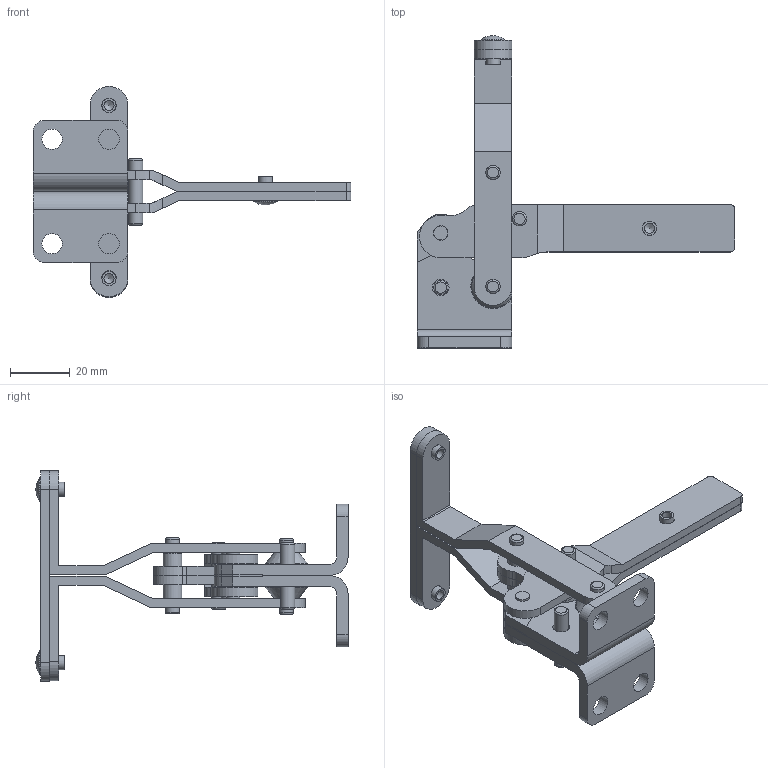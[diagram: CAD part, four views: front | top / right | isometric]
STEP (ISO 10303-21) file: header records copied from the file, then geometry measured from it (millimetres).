
FILE_DESCRIPTION(/* description */ (''),/* implementation_level */ '2;1');
FILE_NAME(/* name */ 'C:\Users\Nick\Desktop\TC-200\3D\TC-200.stp',/* time_stamp */ '2015-09-15T16:36:56-04:00',/* author */ ('Nick'),/* organization */ (''),/* preprocessor_version */ 'ST-DEVELOPER v16.1',/* originating_system */ 'AutoCAD Mechanical',/* authorisation */ '');
FILE_SCHEMA (('AUTOMOTIVE_DESIGN { 1 0 10303 214 3 1 1 }'));
Length unit declared in the file: inch
Products named in the file (13): 120002-L; 130028; 150009; 150088; 150089; 110005-L; 110005-R; 150042; 100035; 121036; 150042$1$ATF; 120002-R; Product
Assembly tree (18 placements, depth 2):
  Product
    120002-L
    120002-R
    130028  x2
    150009  x2
    150088  x2
    150089  x2
    110005-L
    110005-R
    150042
    100035  x2
    121036
    150042$1$ATF  x2
Bounding box: 106.35 x 104.45 x 70.64 mm (x, y, z)
Volume: 36924.3 mm3; surface area: 31154.3 mm2
Topology: 18 solids, 18 shells, 269 faces, 633 edges, 411 vertices
Faces by surface type: plane 114, cylinder 104, torus 27, sphere 9, bspline 8, cone 7
Full cylindrical faces by diameter (mm): 3.353 x3, 4.674 x8, 4.724 x3, 4.75 x1, 4.762 x2, 4.775 x4, 4.801 x2, 4.826 x10, 5.537 x1, 6.299 x4, 6.426 x4, 6.452 x4, 6.807 x4
Entity records: 7188 total; most frequent: CARTESIAN_POINT 2012, DIRECTION 1096, ORIENTED_EDGE 900, EDGE_CURVE 450, AXIS2_PLACEMENT_3D 447, VERTEX_POINT 324, EDGE_LOOP 316, CIRCLE 212
